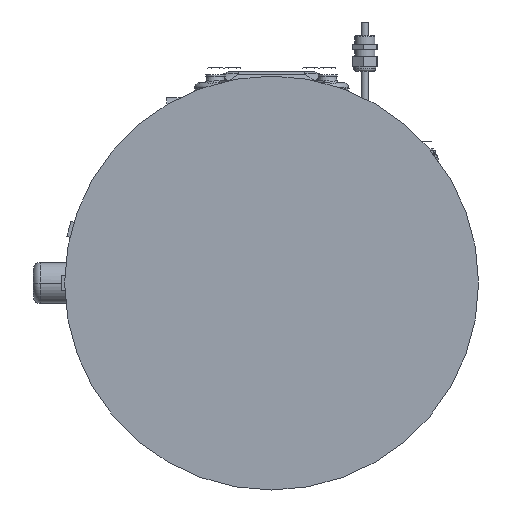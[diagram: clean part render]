
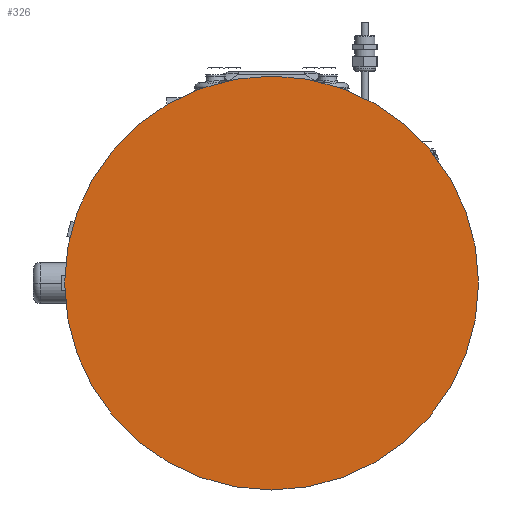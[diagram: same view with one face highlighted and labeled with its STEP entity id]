
A CAD part, front view. The second image highlights one B-rep face of the part: STEP entity #326.
In plain terms, the highlighted planar face has unit normal (0, -1, 0).
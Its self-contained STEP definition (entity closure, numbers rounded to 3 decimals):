
#279=CARTESIAN_POINT('',(0.,-0.25,0.));
#280=DIRECTION('',(0.,-1.,0.));
#281=DIRECTION('',(-1.,0.,0.));
#282=AXIS2_PLACEMENT_3D('',#279,#280,#281);
#284=CARTESIAN_POINT('',(0.,-0.25,0.));
#285=DIRECTION('',(0.,1.,0.));
#286=DIRECTION('',(-1.,0.,0.));
#287=AXIS2_PLACEMENT_3D('',#284,#285,#286);
#308=CARTESIAN_POINT('',(-7.5,-0.25,0.));
#310=VERTEX_POINT('',#308);
#312=CARTESIAN_POINT('',(7.5,-0.25,0.));
#314=VERTEX_POINT('',#312);
#315=CARTESIAN_POINT('',(0.,-0.25,0.));
#316=DIRECTION('',(0.,1.,0.));
#317=DIRECTION('',(1.,0.,0.));
#318=AXIS2_PLACEMENT_3D('',#315,#316,#317);
#319=PLANE('',#318);
#321=ORIENTED_EDGE('',*,*,#320,.F.);
#323=ORIENTED_EDGE('',*,*,#322,.T.);
#324=EDGE_LOOP('',(#321,#323));
#325=FACE_OUTER_BOUND('',#324,.F.);
#326=ADVANCED_FACE('',(#325),#319,.F.);
#283=CIRCLE('',#282,7.5);
#288=CIRCLE('',#287,7.5);
#320=EDGE_CURVE('',#310,#314,#283,.T.);
#322=EDGE_CURVE('',#310,#314,#288,.T.);
